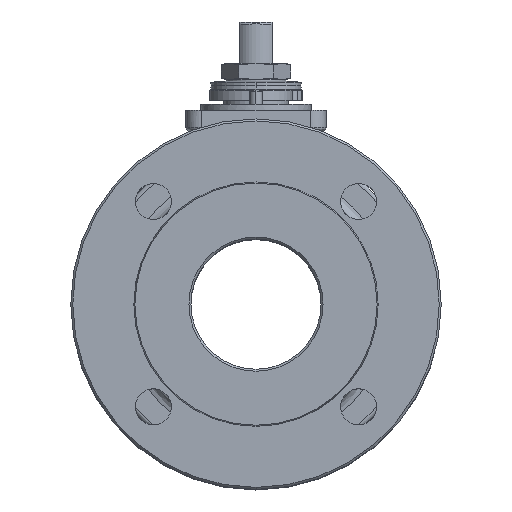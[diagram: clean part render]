
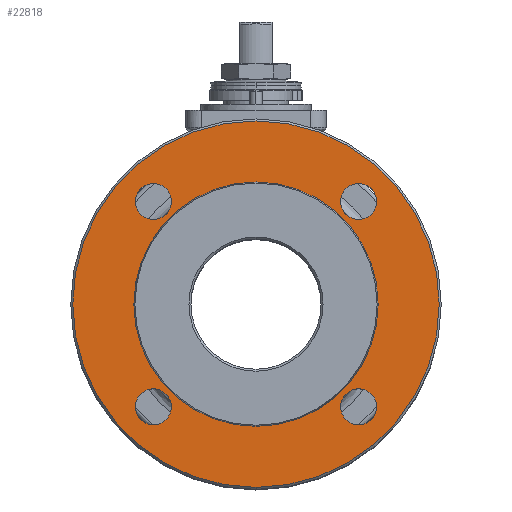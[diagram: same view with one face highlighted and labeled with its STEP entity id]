
A CAD part, top view. The second image highlights one B-rep face of the part: STEP entity #22818.
In plain terms, the highlighted planar face has unit normal (0, 0, 1) as drawn and (0, -1, 0) by its records, which use the part's own axes.
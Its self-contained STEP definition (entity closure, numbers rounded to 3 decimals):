
#94 = CARTESIAN_POINT ( 'NONE',  ( 51.265, -53.253, 38.515 ) ) ;
#428 = ORIENTED_EDGE ( 'NONE', *, *, #27931, .T. ) ;
#1067 = FACE_BOUND ( 'NONE', #2871, .T. ) ;
#1107 = EDGE_LOOP ( 'NONE', ( #22154, #18121 ) ) ;
#1522 = DIRECTION ( 'NONE',  ( 0., 0., 1. ) ) ;
#1749 = VERTEX_POINT ( 'NONE', #20481 ) ;
#2076 = CARTESIAN_POINT ( 'NONE',  ( 0., -53.253, -3.75 ) ) ;
#2166 = EDGE_CURVE ( 'NONE', #30031, #9361, #8004, .T. ) ;
#2526 = DIRECTION ( 'NONE',  ( 0., 0., 1. ) ) ;
#2638 = DIRECTION ( 'NONE',  ( 0., 1., 0. ) ) ;
#2687 = DIRECTION ( 'NONE',  ( 0., 0., 1. ) ) ;
#2871 = EDGE_LOOP ( 'NONE', ( #428, #13805 ) ) ;
#2907 = CARTESIAN_POINT ( 'NONE',  ( -51.265, -53.253, 47.515 ) ) ;
#3225 = ORIENTED_EDGE ( 'NONE', *, *, #22224, .T. ) ;
#3316 = CARTESIAN_POINT ( 'NONE',  ( 51.265, -53.253, 47.515 ) ) ;
#3700 = EDGE_CURVE ( 'NONE', #1749, #8414, #4770, .T. ) ;
#4038 = DIRECTION ( 'NONE',  ( 0., 1., 0. ) ) ;
#4770 = CIRCLE ( 'NONE', #17044, 9. ) ;
#5009 = CARTESIAN_POINT ( 'NONE',  ( 0., -53.253, -3.75 ) ) ;
#5055 = AXIS2_PLACEMENT_3D ( 'NONE', #2907, #23040, #2687 ) ;
#5056 = CARTESIAN_POINT ( 'NONE',  ( 0., -53.253, 87.75 ) ) ;
#5480 = ORIENTED_EDGE ( 'NONE', *, *, #26989, .T. ) ;
#5507 = EDGE_LOOP ( 'NONE', ( #28301, #19047 ) ) ;
#5616 = ORIENTED_EDGE ( 'NONE', *, *, #19499, .T. ) ;
#5662 = DIRECTION ( 'NONE',  ( 0., 0., 1. ) ) ;
#5839 = CIRCLE ( 'NONE', #10948, 91.5 ) ;
#6494 = CIRCLE ( 'NONE', #9256, 9. ) ;
#6519 = DIRECTION ( 'NONE',  ( 0., 0., 1. ) ) ;
#6663 = FACE_BOUND ( 'NONE', #17346, .T. ) ;
#6714 = EDGE_CURVE ( 'NONE', #18533, #7439, #11060, .T. ) ;
#6867 = DIRECTION ( 'NONE',  ( 0., 0., 1. ) ) ;
#7439 = VERTEX_POINT ( 'NONE', #9626 ) ;
#7577 = DIRECTION ( 'NONE',  ( 0., 1., 0. ) ) ;
#8004 = CIRCLE ( 'NONE', #5055, 9. ) ;
#8173 = AXIS2_PLACEMENT_3D ( 'NONE', #27114, #32237, #11778 ) ;
#8414 = VERTEX_POINT ( 'NONE', #16355 ) ;
#8791 = CARTESIAN_POINT ( 'NONE',  ( -51.265, -53.253, 38.515 ) ) ;
#9137 = AXIS2_PLACEMENT_3D ( 'NONE', #18143, #30141, #15600 ) ;
#9201 = PLANE ( 'NONE',  #24728 ) ;
#9256 = AXIS2_PLACEMENT_3D ( 'NONE', #32001, #21877, #6519 ) ;
#9361 = VERTEX_POINT ( 'NONE', #22074 ) ;
#9583 = CARTESIAN_POINT ( 'NONE',  ( 51.265, -53.253, 47.515 ) ) ;
#9626 = CARTESIAN_POINT ( 'NONE',  ( 51.265, -53.253, -64.015 ) ) ;
#10191 = CARTESIAN_POINT ( 'NONE',  ( 51.265, -53.253, 56.515 ) ) ;
#10419 = CARTESIAN_POINT ( 'NONE',  ( -51.265, -53.253, -55.015 ) ) ;
#10464 = EDGE_CURVE ( 'NONE', #10774, #23797, #29772, .T. ) ;
#10774 = VERTEX_POINT ( 'NONE', #31817 ) ;
#10948 = AXIS2_PLACEMENT_3D ( 'NONE', #2076, #14804, #6867 ) ;
#11060 = CIRCLE ( 'NONE', #9137, 9. ) ;
#11778 = DIRECTION ( 'NONE',  ( 0., 0., 1. ) ) ;
#12430 = EDGE_CURVE ( 'NONE', #9361, #30031, #6494, .T. ) ;
#13262 = AXIS2_PLACEMENT_3D ( 'NONE', #5009, #7577, #30938 ) ;
#13459 = CIRCLE ( 'NONE', #16753, 9. ) ;
#13511 = CIRCLE ( 'NONE', #13262, 61. ) ;
#13516 = VERTEX_POINT ( 'NONE', #10191 ) ;
#13805 = ORIENTED_EDGE ( 'NONE', *, *, #21935, .T. ) ;
#14125 = DIRECTION ( 'NONE',  ( 0., -1., 0. ) ) ;
#14350 = CARTESIAN_POINT ( 'NONE',  ( 0., -53.253, -3.75 ) ) ;
#14403 = EDGE_LOOP ( 'NONE', ( #3225, #5616 ) ) ;
#14651 = EDGE_CURVE ( 'NONE', #7439, #18533, #14885, .T. ) ;
#14804 = DIRECTION ( 'NONE',  ( 0., -1., 0. ) ) ;
#14885 = CIRCLE ( 'NONE', #23545, 9. ) ;
#15571 = CIRCLE ( 'NONE', #28475, 9. ) ;
#15600 = DIRECTION ( 'NONE',  ( 0., 0., 1. ) ) ;
#16355 = CARTESIAN_POINT ( 'NONE',  ( -51.265, -53.253, -46.015 ) ) ;
#16373 = CARTESIAN_POINT ( 'NONE',  ( 0., -53.253, -80.5 ) ) ;
#16514 = ORIENTED_EDGE ( 'NONE', *, *, #3700, .T. ) ;
#16633 = FACE_OUTER_BOUND ( 'NONE', #5507, .T. ) ;
#16712 = CARTESIAN_POINT ( 'NONE',  ( 0., -53.253, 57.25 ) ) ;
#16753 = AXIS2_PLACEMENT_3D ( 'NONE', #9583, #4038, #24723 ) ;
#16950 = AXIS2_PLACEMENT_3D ( 'NONE', #14350, #29787, #1522 ) ;
#17044 = AXIS2_PLACEMENT_3D ( 'NONE', #19055, #29454, #26985 ) ;
#17131 = CIRCLE ( 'NONE', #28525, 9. ) ;
#17346 = EDGE_LOOP ( 'NONE', ( #29731, #31811 ) ) ;
#17474 = DIRECTION ( 'NONE',  ( 0., 0., 1. ) ) ;
#18121 = ORIENTED_EDGE ( 'NONE', *, *, #14651, .T. ) ;
#18143 = CARTESIAN_POINT ( 'NONE',  ( 51.265, -53.253, -55.015 ) ) ;
#18533 = VERTEX_POINT ( 'NONE', #23741 ) ;
#19047 = ORIENTED_EDGE ( 'NONE', *, *, #10464, .T. ) ;
#19055 = CARTESIAN_POINT ( 'NONE',  ( -51.265, -53.253, -55.015 ) ) ;
#19499 = EDGE_CURVE ( 'NONE', #21401, #13516, #17131, .T. ) ;
#20481 = CARTESIAN_POINT ( 'NONE',  ( -51.265, -53.253, -64.015 ) ) ;
#20689 = CARTESIAN_POINT ( 'NONE',  ( 0., -53.253, -64.75 ) ) ;
#21189 = DIRECTION ( 'NONE',  ( 0., 1., 0. ) ) ;
#21401 = VERTEX_POINT ( 'NONE', #94 ) ;
#21552 = DIRECTION ( 'NONE',  ( 0., 0., -1. ) ) ;
#21857 = EDGE_LOOP ( 'NONE', ( #5480, #16514 ) ) ;
#21877 = DIRECTION ( 'NONE',  ( 0., 1., 0. ) ) ;
#21935 = EDGE_CURVE ( 'NONE', #29071, #26714, #29884, .T. ) ;
#22074 = CARTESIAN_POINT ( 'NONE',  ( -51.265, -53.253, 56.515 ) ) ;
#22154 = ORIENTED_EDGE ( 'NONE', *, *, #6714, .T. ) ;
#22224 = EDGE_CURVE ( 'NONE', #13516, #21401, #13459, .T. ) ;
#22638 = DIRECTION ( 'NONE',  ( 0., 1., 0. ) ) ;
#22818 = ADVANCED_FACE ( 'NONE', ( #16633, #25851, #32246, #6663, #26276, #1067 ), #9201, .T. ) ;
#23040 = DIRECTION ( 'NONE',  ( 0., 1., 0. ) ) ;
#23092 = EDGE_CURVE ( 'NONE', #23797, #10774, #5839, .T. ) ;
#23545 = AXIS2_PLACEMENT_3D ( 'NONE', #32880, #22638, #17474 ) ;
#23741 = CARTESIAN_POINT ( 'NONE',  ( 51.265, -53.253, -46.015 ) ) ;
#23797 = VERTEX_POINT ( 'NONE', #5056 ) ;
#24723 = DIRECTION ( 'NONE',  ( 0., 0., 1. ) ) ;
#24728 = AXIS2_PLACEMENT_3D ( 'NONE', #16373, #14125, #21552 ) ;
#25851 = FACE_BOUND ( 'NONE', #1107, .T. ) ;
#26276 = FACE_BOUND ( 'NONE', #14403, .T. ) ;
#26714 = VERTEX_POINT ( 'NONE', #16712 ) ;
#26985 = DIRECTION ( 'NONE',  ( 0., 0., 1. ) ) ;
#26989 = EDGE_CURVE ( 'NONE', #8414, #1749, #15571, .T. ) ;
#27114 = CARTESIAN_POINT ( 'NONE',  ( 0., -53.253, -3.75 ) ) ;
#27931 = EDGE_CURVE ( 'NONE', #26714, #29071, #13511, .T. ) ;
#28301 = ORIENTED_EDGE ( 'NONE', *, *, #23092, .T. ) ;
#28475 = AXIS2_PLACEMENT_3D ( 'NONE', #10419, #2638, #2526 ) ;
#28525 = AXIS2_PLACEMENT_3D ( 'NONE', #3316, #21189, #5662 ) ;
#29071 = VERTEX_POINT ( 'NONE', #20689 ) ;
#29454 = DIRECTION ( 'NONE',  ( 0., 1., 0. ) ) ;
#29731 = ORIENTED_EDGE ( 'NONE', *, *, #12430, .T. ) ;
#29772 = CIRCLE ( 'NONE', #16950, 91.5 ) ;
#29787 = DIRECTION ( 'NONE',  ( 0., -1., 0. ) ) ;
#29884 = CIRCLE ( 'NONE', #8173, 61. ) ;
#30031 = VERTEX_POINT ( 'NONE', #8791 ) ;
#30141 = DIRECTION ( 'NONE',  ( 0., 1., 0. ) ) ;
#30938 = DIRECTION ( 'NONE',  ( 0., 0., 1. ) ) ;
#31811 = ORIENTED_EDGE ( 'NONE', *, *, #2166, .T. ) ;
#31817 = CARTESIAN_POINT ( 'NONE',  ( 0., -53.253, -95.25 ) ) ;
#32001 = CARTESIAN_POINT ( 'NONE',  ( -51.265, -53.253, 47.515 ) ) ;
#32237 = DIRECTION ( 'NONE',  ( 0., 1., 0. ) ) ;
#32246 = FACE_BOUND ( 'NONE', #21857, .T. ) ;
#32880 = CARTESIAN_POINT ( 'NONE',  ( 51.265, -53.253, -55.015 ) ) ;
